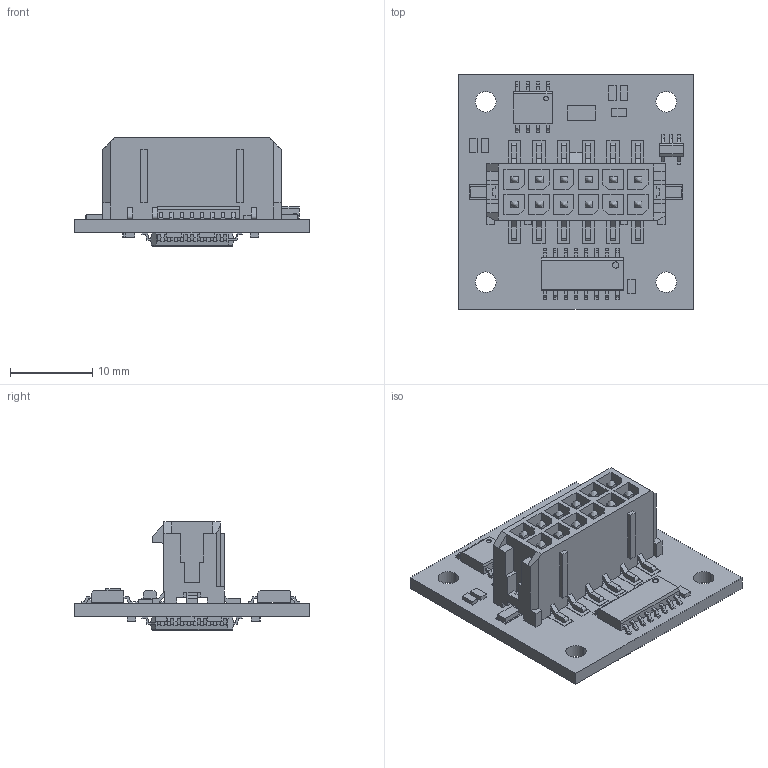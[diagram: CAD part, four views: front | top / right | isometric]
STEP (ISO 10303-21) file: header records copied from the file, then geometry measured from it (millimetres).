
FILE_DESCRIPTION (( 'STEP AP214' ), '1' );
FILE_NAME ('RMB28SI_HR-AM8192_Molex_MODM241.STEP', '2017-07-14T09:26:56', ( '' ), ( '' ), 'SwSTEP 2.0', 'SolidWorks 2016', '' );
FILE_SCHEMA (( 'AUTOMOTIVE_DESIGN' ));
Length unit declared in the file: millimetre
Products named in the file (1): RMB28SI_HR-AM8192_Molex_MODM241
Bounding box: 28.5 x 28.5 x 13.15 mm (x, y, z)
Volume: 2616.5 mm3; surface area: 4041.8 mm2
Topology: 2 solids, 2 shells, 1452 faces, 4111 edges, 2700 vertices
Faces by surface type: plane 1313, bspline 98, cylinder 39, torus 2
Entity records: 52974 total; most frequent: CARTESIAN_POINT 14168, ORIENTED_EDGE 8222, DIRECTION 6707, EDGE_CURVE 4111, VECTOR 3861, LINE 3861, VERTEX_POINT 2700, EDGE_LOOP 1637
